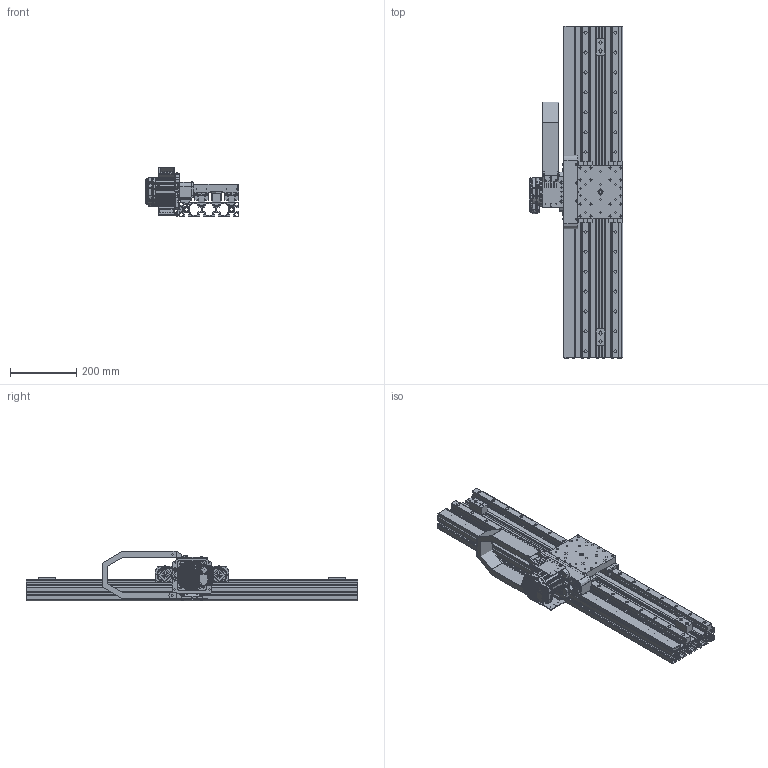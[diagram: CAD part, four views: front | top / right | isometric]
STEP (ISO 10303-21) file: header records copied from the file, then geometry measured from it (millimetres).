
FILE_DESCRIPTION( ( '' ), ' ' );
FILE_NAME( '/vol/tmp/translate-6056809606685475242/5c7ea6eccb3f0b1ca4a5e1e1.step', '2019-03-05T16:42:26', ( '' ), ( '' ), ' ', ' ', ' ' );
FILE_SCHEMA( ( 'AUTOMOTIVE_DESIGN { 1 0 10303 214 1 1 1 1 }' ) );
Length unit declared in the file: metre
Products named in the file (107): RAIL FASTENERS <2>; 100001-8065 M5-.80 X 25 ALLOY SHCS; 20mm BEARING RAIL CAP; 102684-001 BOSCH 10mm T-BLOCK M5; RAIL FASTENERS <14>; RAIL FASTENERS <15>; RAIL FASTENERS <16>; TRAY FASTENERS <4>; #8840; #8848; RAIL FASTENERS <9>; RAIL FASTENERS <3>; RAIL FASTENERS <1>; RAIL FASTENERS <7>; RAIL FASTENERS <4>; RAIL FASTENERS <8>; RAIL FASTENERS <10>; TRAY FASTENERS <3>; TRAY FASTENERS <2>; RAIL FASTENERS <6>; RAIL FASTENERS <11>; RAIL FASTENERS <5>; RAIL FASTENERS <17>; RAIL FASTENERS <13>; TRAY FASTENERS <5>; RAIL FASTENERS <12>; TRAY FASTENERS <1>; 104587-001 SBL-M DYNAMIC BEARING ASSEMBLY <2>; 102638-005 5202 SHIELDED DOUBLE ROW BALL BEARING; 103126-001 SBL-M BEARING SHAFT; TRAY <1>; 102656-1000 SBL-M BELT TRAY; 102567-001 T5 X 32mm BELTING; 102610-005 VHB TAPE 1-1/4 WIDE; 104587-001 SBL-M DYNAMIC BEARING ASSEMBLY <1>; RAIL <1>; 106888-001 20mm RAIL COVER; 102732-1000 20mm STANDARD GUIDE RAIL; POLYURETHANE BUMPLER <1>; 100003-015 3/8 SS FLAT WASHER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
Assembly tree (285 placements, depth 5):
  Assem1
    102977-001 LINKS
    1000 CHASSIS <1>
      102572-1000 45-SERIES PROFILE 45X180H
      RAIL <1>
        106888-001 20mm RAIL COVER
        102732-1000 20mm STANDARD GUIDE RAIL
        RAIL FASTENERS <3>
          100001-8065 M5-.80 X 25 ALLOY SHCS
          102684-001 BOSCH 10mm T-BLOCK M5
          20mm BEARING RAIL CAP
        RAIL FASTENERS <15>
          100001-8065 M5-.80 X 25 ALLOY SHCS
          102684-001 BOSCH 10mm T-BLOCK M5
          20mm BEARING RAIL CAP
        RAIL FASTENERS <8>
          102684-001 BOSCH 10mm T-BLOCK M5
          100001-8065 M5-.80 X 25 ALLOY SHCS
          20mm BEARING RAIL CAP
        RAIL FASTENERS <1>
          100001-8065 M5-.80 X 25 ALLOY SHCS
          102684-001 BOSCH 10mm T-BLOCK M5
          20mm BEARING RAIL CAP
        RAIL FASTENERS <16>
          20mm BEARING RAIL CAP
          102684-001 BOSCH 10mm T-BLOCK M5
          100001-8065 M5-.80 X 25 ALLOY SHCS
        RAIL FASTENERS <11>
          102684-001 BOSCH 10mm T-BLOCK M5
          20mm BEARING RAIL CAP
          100001-8065 M5-.80 X 25 ALLOY SHCS
        RAIL FASTENERS <13>
          20mm BEARING RAIL CAP
          100001-8065 M5-.80 X 25 ALLOY SHCS
          102684-001 BOSCH 10mm T-BLOCK M5
        RAIL FASTENERS <10>
          102684-001 BOSCH 10mm T-BLOCK M5
          100001-8065 M5-.80 X 25 ALLOY SHCS
          20mm BEARING RAIL CAP
        RAIL FASTENERS <5>
          20mm BEARING RAIL CAP
          100001-8065 M5-.80 X 25 ALLOY SHCS
          102684-001 BOSCH 10mm T-BLOCK M5
        RAIL FASTENERS <9>
          20mm BEARING RAIL CAP
          102684-001 BOSCH 10mm T-BLOCK M5
          100001-8065 M5-.80 X 25 ALLOY SHCS
        RAIL FASTENERS <12>
          102684-001 BOSCH 10mm T-BLOCK M5
          100001-8065 M5-.80 X 25 ALLOY SHCS
          20mm BEARING RAIL CAP
        RAIL FASTENERS <6>
          20mm BEARING RAIL CAP
          100001-8065 M5-.80 X 25 ALLOY SHCS
          102684-001 BOSCH 10mm T-BLOCK M5
        RAIL FASTENERS <2>
          100001-8065 M5-.80 X 25 ALLOY SHCS
          20mm BEARING RAIL CAP
          102684-001 BOSCH 10mm T-BLOCK M5
        RAIL FASTENERS <17>
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Bounding box: 282.42 x 1000 x 150.3 mm (x, y, z)
Topology: 255 solids, 260 shells, 10168 faces, 25937 edges, 16496 vertices
Faces by surface type: plane 4525, cylinder 2749, bspline 1034, torus 927, cone 744, sphere 147, extrusion 40, revolution 2
Full cylindrical faces by diameter (mm): 0.152 x1, 2.2 x31, 2.261 x25, 2.44 x25, 2.47 x4, 2.5 x32, 2.6 x8, 2.66 x8, 2.997 x4, 3 x12, 3.175 x1, 3.184 x1, 3.2 x4, 3.3 x9, 3.4 x2, 3.454 x5, 4 x6, 4.166 x5, 4.2 x13, 4.216 x16, 4.5 x7, 4.8 x4, 5 x66, 5.004 x60, 5.156 x5, 5.284 x1, 5.5 x60, 5.563 x12, 5.6 x4, 5.85 x8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
Entity records: 370317 total; most frequent: CARTESIAN_POINT 142235, ORIENTED_EDGE 34990, DIRECTION 34761, EDGE_CURVE 17495, AXIS2_PLACEMENT_3D 13655, VERTEX_POINT 11567, EDGE_LOOP 8809, FACE_OUTER_BOUND 7994
